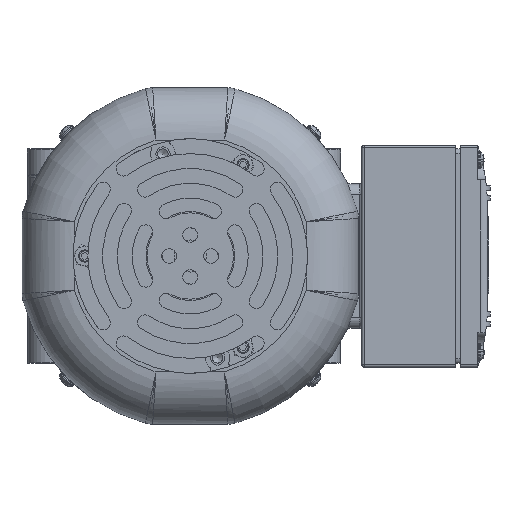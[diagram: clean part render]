
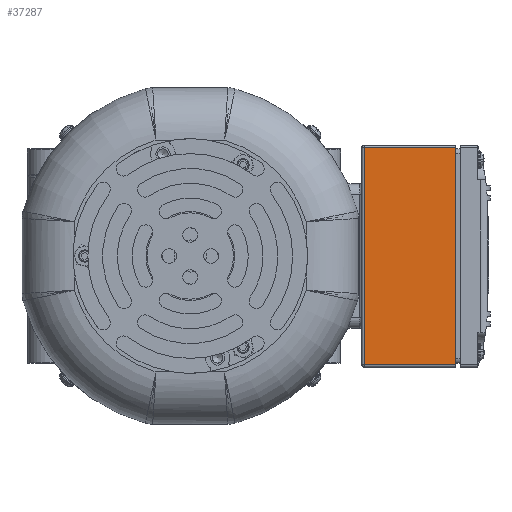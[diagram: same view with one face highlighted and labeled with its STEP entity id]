
A CAD part, left-side view. The second image highlights one B-rep face of the part: STEP entity #37287.
In plain terms, the highlighted planar face has unit normal (-1, 0, 0).
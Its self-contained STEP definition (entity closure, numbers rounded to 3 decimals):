
#3111=PLANE('',#39978);
#4328=FACE_OUTER_BOUND('',#6548,.T.);
#6548=EDGE_LOOP('',(#27875,#27876,#27877,#27878));
#9191=LINE('',#59634,#11981);
#9192=LINE('',#59636,#11982);
#9193=LINE('',#59638,#11983);
#9194=LINE('',#59639,#11984);
#11981=VECTOR('',#46100,10.);
#11982=VECTOR('',#46101,10.);
#11983=VECTOR('',#46102,10.);
#11984=VECTOR('',#46103,10.);
#17167=VERTEX_POINT('',#59632);
#17168=VERTEX_POINT('',#59633);
#17169=VERTEX_POINT('',#59635);
#17170=VERTEX_POINT('',#59637);
#21118=EDGE_CURVE('',#17167,#17168,#9191,.T.);
#21119=EDGE_CURVE('',#17169,#17167,#9192,.T.);
#21120=EDGE_CURVE('',#17169,#17170,#9193,.T.);
#21121=EDGE_CURVE('',#17168,#17170,#9194,.T.);
#27875=ORIENTED_EDGE('',*,*,#21118,.F.);
#27876=ORIENTED_EDGE('',*,*,#21119,.F.);
#27877=ORIENTED_EDGE('',*,*,#21120,.T.);
#27878=ORIENTED_EDGE('',*,*,#21121,.F.);
#37287=ADVANCED_FACE('',(#4328),#3111,.T.);
#39978=AXIS2_PLACEMENT_3D('',#59631,#46098,#46099);
#46098=DIRECTION('center_axis',(-1.,0.,0.));
#46099=DIRECTION('ref_axis',(0.,-1.,0.));
#46100=DIRECTION('',(0.,0.,1.));
#46101=DIRECTION('',(0.,1.,0.));
#46102=DIRECTION('',(0.,0.,1.));
#46103=DIRECTION('',(0.,-1.,0.));
#59631=CARTESIAN_POINT('Origin',(-216.367,-68.667,-45.065));
#59632=CARTESIAN_POINT('',(-216.367,-69.667,-44.065));
#59633=CARTESIAN_POINT('',(-216.367,-69.667,43.935));
#59634=CARTESIAN_POINT('',(-216.367,-69.667,-22.565));
#59635=CARTESIAN_POINT('',(-216.367,-106.667,-44.065));
#59636=CARTESIAN_POINT('',(-216.367,-68.667,-44.065));
#59637=CARTESIAN_POINT('',(-216.367,-106.667,43.935));
#59638=CARTESIAN_POINT('',(-216.367,-106.667,44.935));
#59639=CARTESIAN_POINT('',(-216.367,-68.667,43.935));
